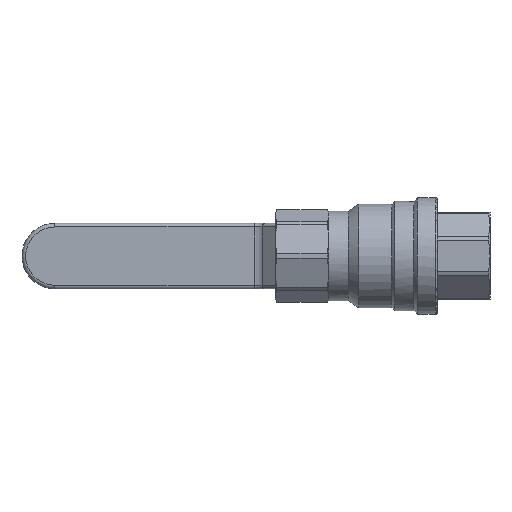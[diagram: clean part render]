
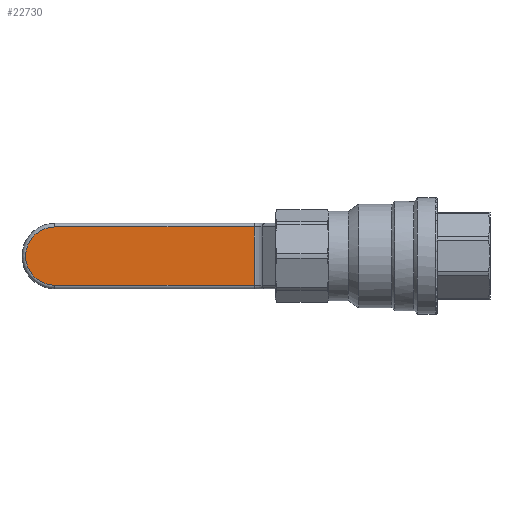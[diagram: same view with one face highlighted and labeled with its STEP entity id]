
A CAD part, front view. The second image highlights one B-rep face of the part: STEP entity #22730.
In plain terms, the highlighted planar face has unit normal (0, -1, 0).
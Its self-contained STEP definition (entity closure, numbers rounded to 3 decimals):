
#22662=CARTESIAN_POINT('',(-34.808,43.729,-8.0));
#22663=VERTEX_POINT('',#22662);
#22664=CARTESIAN_POINT('',(-34.808,43.729,8.0));
#22665=VERTEX_POINT('',#22664);
#22666=CARTESIAN_POINT('',(-34.808,43.729,-8.0));
#22667=DIRECTION('',(0.0,0.0,1.0));
#22668=VECTOR('',#22667,16.0);
#22669=LINE('',#22666,#22668);
#22670=EDGE_CURVE('',#22663,#22665,#22669,.T.);
#22699=CARTESIAN_POINT('',(-32.26,43.729,-23.5));
#22700=DIRECTION('',(0.0,1.0,0.0));
#22701=DIRECTION('',(0.0,0.0,-1.0));
#22702=AXIS2_PLACEMENT_3D('',#22699,#22700,#22701);
#22703=PLANE('',#22702);
#22704=ORIENTED_EDGE('',*,*,#22670,.T.);
#22705=CARTESIAN_POINT('',(-89.5,43.729,8.0));
#22706=VERTEX_POINT('',#22705);
#22707=CARTESIAN_POINT('',(-34.808,43.729,8.0));
#22708=DIRECTION('',(-1.0,0.0,0.0));
#22709=VECTOR('',#22708,54.692);
#22710=LINE('',#22707,#22709);
#22711=EDGE_CURVE('',#22665,#22706,#22710,.T.);
#22712=ORIENTED_EDGE('',*,*,#22711,.T.);
#22713=CARTESIAN_POINT('',(-89.5,43.729,-8.0));
#22714=VERTEX_POINT('',#22713);
#22715=CARTESIAN_POINT('',(-89.5,43.729,0.));
#22716=DIRECTION('',(0.0,-1.0,0.0));
#22717=DIRECTION('',(0.0,0.0,1.0));
#22718=AXIS2_PLACEMENT_3D('',#22715,#22716,#22717);
#22719=CIRCLE('',#22718,8.0);
#22720=EDGE_CURVE('',#22706,#22714,#22719,.T.);
#22721=ORIENTED_EDGE('',*,*,#22720,.T.);
#22722=CARTESIAN_POINT('',(-89.5,43.729,-8.0));
#22723=DIRECTION('',(1.0,0.0,0.0));
#22724=VECTOR('',#22723,54.692);
#22725=LINE('',#22722,#22724);
#22726=EDGE_CURVE('',#22714,#22663,#22725,.T.);
#22727=ORIENTED_EDGE('',*,*,#22726,.T.);
#22728=EDGE_LOOP('',(#22704,#22712,#22721,#22727));
#22729=FACE_OUTER_BOUND('',#22728,.T.);
#22730=ADVANCED_FACE('',(#22729),#22703,.F.);
